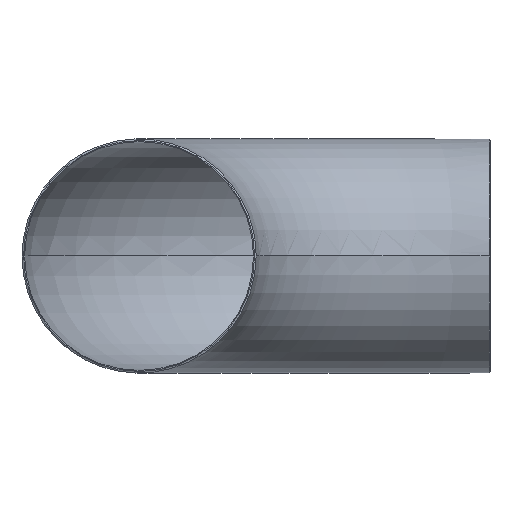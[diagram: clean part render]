
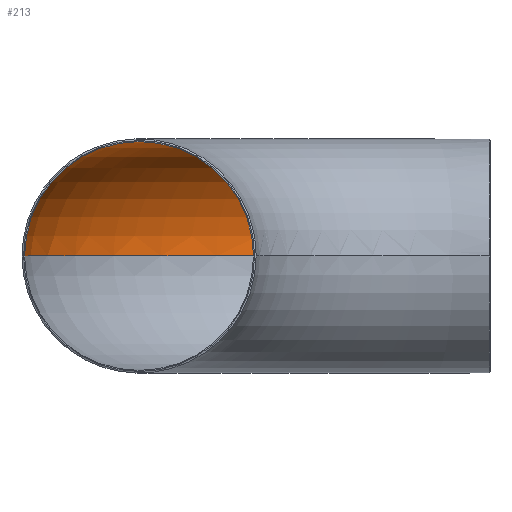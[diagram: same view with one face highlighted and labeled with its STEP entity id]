
A CAD part, front view. The second image highlights one B-rep face of the part: STEP entity #213.
In plain terms, the highlighted toroidal (fillet/blend) face has major radius 533 mm and minor radius 173.8 mm.
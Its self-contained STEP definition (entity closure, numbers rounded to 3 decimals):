
#10 = AXIS2_PLACEMENT_3D ( 'NONE', #126, #563, #267 ) ;
#30 = VERTEX_POINT ( 'NONE', #393 ) ;
#32 = CIRCLE ( 'NONE', #10, 173.8 ) ;
#45 = VERTEX_POINT ( 'NONE', #82 ) ;
#46 = CARTESIAN_POINT ( 'NONE',  ( 533., 0., 0. ) ) ;
#82 = CARTESIAN_POINT ( 'NONE',  ( 173.8, 0., 0. ) ) ;
#86 = EDGE_CURVE ( 'NONE', #450, #30, #168, .T. ) ;
#98 = AXIS2_PLACEMENT_3D ( 'NONE', #46, #184, #141 ) ;
#106 = EDGE_CURVE ( 'NONE', #468, #45, #206, .T. ) ;
#118 = EDGE_CURVE ( 'NONE', #450, #468, #32, .T. ) ;
#126 = CARTESIAN_POINT ( 'NONE',  ( 533., 533., 0. ) ) ;
#140 = ORIENTED_EDGE ( 'NONE', *, *, #106, .T. ) ;
#141 = DIRECTION ( 'NONE',  ( 1., 0., 0. ) ) ;
#142 = AXIS2_PLACEMENT_3D ( 'NONE', #410, #448, #154 ) ;
#154 = DIRECTION ( 'NONE',  ( 0., 0., 1. ) ) ;
#158 = CARTESIAN_POINT ( 'NONE',  ( 533., 359.2, 0. ) ) ;
#168 = CIRCLE ( 'NONE', #493, 706.8 ) ;
#184 = DIRECTION ( 'NONE',  ( 0., 0., 1. ) ) ;
#206 = CIRCLE ( 'NONE', #441, 359.2 ) ;
#213 = ADVANCED_FACE ( 'NONE', ( #307 ), #630, .F. ) ;
#221 = CIRCLE ( 'NONE', #142, 173.8 ) ;
#267 = DIRECTION ( 'NONE',  ( 0., 1., 0. ) ) ;
#307 = FACE_OUTER_BOUND ( 'NONE', #479, .T. ) ;
#370 = DIRECTION ( 'NONE',  ( 1., 0., 0. ) ) ;
#393 = CARTESIAN_POINT ( 'NONE',  ( -173.8, 0., 0. ) ) ;
#410 = CARTESIAN_POINT ( 'NONE',  ( 0., 0., 0. ) ) ;
#417 = CARTESIAN_POINT ( 'NONE',  ( 533., 0., 0. ) ) ;
#419 = DIRECTION ( 'NONE',  ( 0., 0., 1. ) ) ;
#441 = AXIS2_PLACEMENT_3D ( 'NONE', #417, #419, #370 ) ;
#448 = DIRECTION ( 'NONE',  ( 0., 1., 0. ) ) ;
#450 = VERTEX_POINT ( 'NONE', #502 ) ;
#466 = EDGE_CURVE ( 'NONE', #30, #45, #221, .T. ) ;
#468 = VERTEX_POINT ( 'NONE', #158 ) ;
#469 = CARTESIAN_POINT ( 'NONE',  ( 533., 0., 0. ) ) ;
#479 = EDGE_LOOP ( 'NONE', ( #481, #519, #140, #601 ) ) ;
#481 = ORIENTED_EDGE ( 'NONE', *, *, #86, .F. ) ;
#493 = AXIS2_PLACEMENT_3D ( 'NONE', #469, #623, #523 ) ;
#502 = CARTESIAN_POINT ( 'NONE',  ( 533., 706.8, 0. ) ) ;
#519 = ORIENTED_EDGE ( 'NONE', *, *, #118, .T. ) ;
#523 = DIRECTION ( 'NONE',  ( 1., 0., 0. ) ) ;
#563 = DIRECTION ( 'NONE',  ( 1., 0., 0. ) ) ;
#601 = ORIENTED_EDGE ( 'NONE', *, *, #466, .F. ) ;
#623 = DIRECTION ( 'NONE',  ( 0., 0., 1. ) ) ;
#630 = TOROIDAL_SURFACE ( 'NONE', #98, 533., 173.8 ) ;
